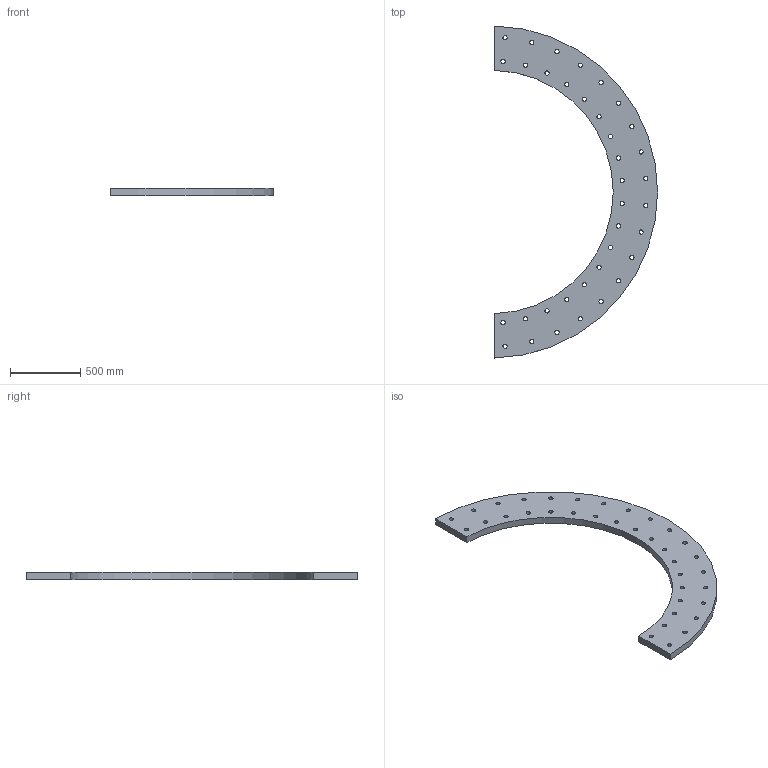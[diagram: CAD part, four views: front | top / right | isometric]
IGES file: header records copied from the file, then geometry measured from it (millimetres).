
Start section:  PTC IGES file: 05.igs
Global section: file name: 05.igs; native system: Pro/ENGINEER by Parametric Technology Corporation; preprocessor: 1999260; author: oshatz; organization: Unknown; date: 000922.101900; units: millimetre
Bounding box: 1158 x 2355.66 x 50 mm (x, y, z)
Surface area: 2461429.1 mm2 (no closed solid volume)
Topology: 0 solids, 0 shells, 78 faces, 456 edges, 456 vertices
Faces by surface type: revolution 74, bspline 4
